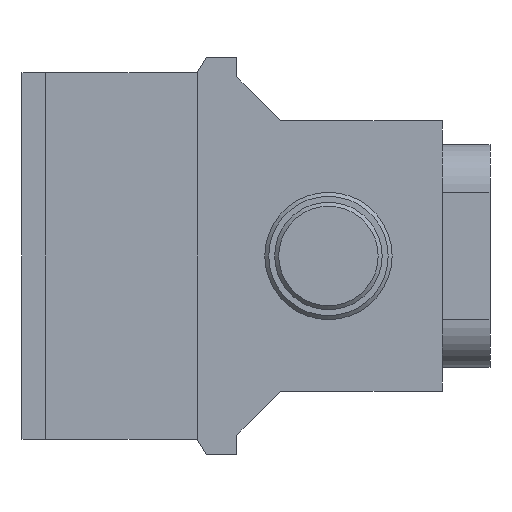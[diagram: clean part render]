
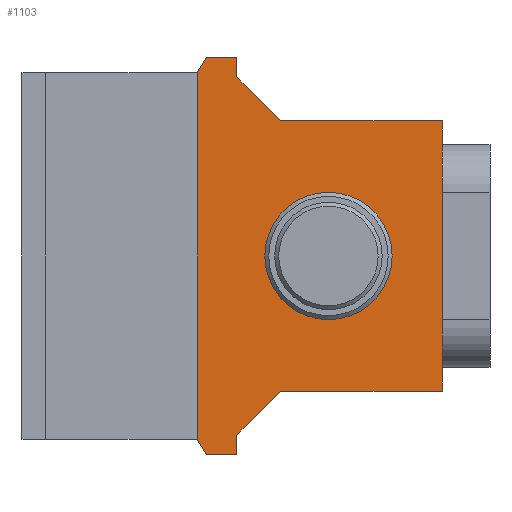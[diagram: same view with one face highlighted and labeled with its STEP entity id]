
A CAD part, left-side view. The second image highlights one B-rep face of the part: STEP entity #1103.
In plain terms, the highlighted planar face has unit normal (-1, 0, 0).
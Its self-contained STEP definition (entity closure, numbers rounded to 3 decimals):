
#8 = CARTESIAN_POINT ( 'NONE',  ( -11., 38., 22.5 ) ) ;
#53 = CARTESIAN_POINT ( 'NONE',  ( -11., 38., -25. ) ) ;
#83 = CARTESIAN_POINT ( 'NONE',  ( -11., 38., 17. ) ) ;
#106 = CARTESIAN_POINT ( 'NONE',  ( -11., 43., 23. ) ) ;
#110 = CARTESIAN_POINT ( 'NONE',  ( -11., 26.5, 0. ) ) ;
#136 = EDGE_CURVE ( 'NONE', #1869, #1623, #403, .T. ) ;
#149 = LINE ( 'NONE', #543, #1719 ) ;
#164 = ORIENTED_EDGE ( 'NONE', *, *, #1233, .F. ) ;
#166 = CARTESIAN_POINT ( 'NONE',  ( -11., 38., 25. ) ) ;
#171 = CIRCLE ( 'NONE', #2646, 8. ) ;
#173 = EDGE_CURVE ( 'NONE', #1258, #1869, #2552, .T. ) ;
#190 = DIRECTION ( 'NONE',  ( 0., -0.5, 0.866 ) ) ;
#202 = EDGE_CURVE ( 'NONE', #401, #913, #1502, .T. ) ;
#213 = VERTEX_POINT ( 'NONE', #701 ) ;
#273 = DIRECTION ( 'NONE',  ( 0., 0., 1. ) ) ;
#291 = ORIENTED_EDGE ( 'NONE', *, *, #622, .F. ) ;
#293 = EDGE_CURVE ( 'NONE', #1623, #910, #2622, .T. ) ;
#343 = CARTESIAN_POINT ( 'NONE',  ( -11., 12.2, -17. ) ) ;
#360 = EDGE_CURVE ( 'NONE', #1483, #2247, #726, .T. ) ;
#371 = LINE ( 'NONE', #1190, #1078 ) ;
#395 = VECTOR ( 'NONE', #2294, 1000. ) ;
#401 = VERTEX_POINT ( 'NONE', #2266 ) ;
#403 = LINE ( 'NONE', #1222, #1177 ) ;
#411 = DIRECTION ( 'NONE',  ( 0., -0.707, -0.707 ) ) ;
#413 = CARTESIAN_POINT ( 'NONE',  ( -11., 43., -23. ) ) ;
#434 = ORIENTED_EDGE ( 'NONE', *, *, #876, .F. ) ;
#543 = CARTESIAN_POINT ( 'NONE',  ( -11., 38., 23. ) ) ;
#566 = EDGE_CURVE ( 'NONE', #2247, #1358, #1038, .T. ) ;
#580 = ORIENTED_EDGE ( 'NONE', *, *, #136, .F. ) ;
#590 = AXIS2_PLACEMENT_3D ( 'NONE', #83, #728, #2159 ) ;
#607 = DIRECTION ( 'NONE',  ( 0., 0., -1. ) ) ;
#612 = ORIENTED_EDGE ( 'NONE', *, *, #566, .F. ) ;
#622 = EDGE_CURVE ( 'NONE', #1854, #1483, #1413, .T. ) ;
#623 = CARTESIAN_POINT ( 'NONE',  ( -11., 12.2, -17. ) ) ;
#642 = ORIENTED_EDGE ( 'NONE', *, *, #2079, .F. ) ;
#658 = ORIENTED_EDGE ( 'NONE', *, *, #2232, .F. ) ;
#701 = CARTESIAN_POINT ( 'NONE',  ( -11., 32.5, 17. ) ) ;
#726 = LINE ( 'NONE', #2169, #1481 ) ;
#728 = DIRECTION ( 'NONE',  ( -1., 0., 0. ) ) ;
#754 = ORIENTED_EDGE ( 'NONE', *, *, #2547, .T. ) ;
#763 = CARTESIAN_POINT ( 'NONE',  ( -11., 38., 25. ) ) ;
#847 = CARTESIAN_POINT ( 'NONE',  ( -11., 38., -22.5 ) ) ;
#870 = VERTEX_POINT ( 'NONE', #1727 ) ;
#876 = EDGE_CURVE ( 'NONE', #913, #1258, #1388, .T. ) ;
#894 = CARTESIAN_POINT ( 'NONE',  ( -11., 41.845, 25. ) ) ;
#910 = VERTEX_POINT ( 'NONE', #166 ) ;
#913 = VERTEX_POINT ( 'NONE', #1617 ) ;
#938 = VERTEX_POINT ( 'NONE', #1297 ) ;
#985 = DIRECTION ( 'NONE',  ( 0., 0., -1. ) ) ;
#1038 = LINE ( 'NONE', #2503, #2360 ) ;
#1044 = ORIENTED_EDGE ( 'NONE', *, *, #293, .F. ) ;
#1078 = VECTOR ( 'NONE', #2002, 1000. ) ;
#1103 = ADVANCED_FACE ( 'NONE', ( #1712, #1322 ), #2149, .T. ) ;
#1134 = VECTOR ( 'NONE', #1904, 1000. ) ;
#1158 = EDGE_CURVE ( 'NONE', #1796, #2048, #2594, .T. ) ;
#1175 = VECTOR ( 'NONE', #273, 1000. ) ;
#1177 = VECTOR ( 'NONE', #190, 1000. ) ;
#1190 = CARTESIAN_POINT ( 'NONE',  ( -11., 12.2, -17. ) ) ;
#1193 = ORIENTED_EDGE ( 'NONE', *, *, #2417, .F. ) ;
#1194 = EDGE_CURVE ( 'NONE', #910, #870, #149, .T. ) ;
#1222 = CARTESIAN_POINT ( 'NONE',  ( -11., 43., 23. ) ) ;
#1223 = LINE ( 'NONE', #2269, #1501 ) ;
#1227 = CARTESIAN_POINT ( 'NONE',  ( -11., 12.2, 17. ) ) ;
#1233 = EDGE_CURVE ( 'NONE', #213, #1796, #1223, .T. ) ;
#1258 = VERTEX_POINT ( 'NONE', #413 ) ;
#1297 = CARTESIAN_POINT ( 'NONE',  ( -11., 26.5, 8. ) ) ;
#1301 = ORIENTED_EDGE ( 'NONE', *, *, #360, .F. ) ;
#1304 = CARTESIAN_POINT ( 'NONE',  ( -11., 43., 23. ) ) ;
#1322 = FACE_OUTER_BOUND ( 'NONE', #1430, .T. ) ;
#1334 = ORIENTED_EDGE ( 'NONE', *, *, #202, .F. ) ;
#1358 = VERTEX_POINT ( 'NONE', #1920 ) ;
#1361 = CARTESIAN_POINT ( 'NONE',  ( -11., 43., -23. ) ) ;
#1388 = LINE ( 'NONE', #1361, #1980 ) ;
#1413 = LINE ( 'NONE', #1631, #2412 ) ;
#1430 = EDGE_LOOP ( 'NONE', ( #164, #1193, #1765, #1044, #580, #1508, #434, #1334, #642, #612, #1301, #291, #658, #1827 ) ) ;
#1481 = VECTOR ( 'NONE', #2143, 1000. ) ;
#1483 = VERTEX_POINT ( 'NONE', #623 ) ;
#1501 = VECTOR ( 'NONE', #1682, 1000. ) ;
#1502 = LINE ( 'NONE', #53, #1134 ) ;
#1508 = ORIENTED_EDGE ( 'NONE', *, *, #173, .F. ) ;
#1576 = EDGE_LOOP ( 'NONE', ( #754 ) ) ;
#1584 = DIRECTION ( 'NONE',  ( 0., -1., 0. ) ) ;
#1617 = CARTESIAN_POINT ( 'NONE',  ( -11., 41.845, -25. ) ) ;
#1623 = VERTEX_POINT ( 'NONE', #894 ) ;
#1631 = CARTESIAN_POINT ( 'NONE',  ( -11., 12.2, -17. ) ) ;
#1682 = DIRECTION ( 'NONE',  ( 0., -1., 0. ) ) ;
#1712 = FACE_BOUND ( 'NONE', #1576, .T. ) ;
#1719 = VECTOR ( 'NONE', #1790, 1000. ) ;
#1727 = CARTESIAN_POINT ( 'NONE',  ( -11., 38., 22.5 ) ) ;
#1738 = VECTOR ( 'NONE', #1584, 1000. ) ;
#1765 = ORIENTED_EDGE ( 'NONE', *, *, #1194, .F. ) ;
#1784 = DIRECTION ( 'NONE',  ( 0., 0., 1. ) ) ;
#1788 = CARTESIAN_POINT ( 'NONE',  ( -11., 32.5, -17. ) ) ;
#1790 = DIRECTION ( 'NONE',  ( 0., 0., -1. ) ) ;
#1796 = VERTEX_POINT ( 'NONE', #1227 ) ;
#1827 = ORIENTED_EDGE ( 'NONE', *, *, #1158, .F. ) ;
#1854 = VERTEX_POINT ( 'NONE', #2383 ) ;
#1869 = VERTEX_POINT ( 'NONE', #106 ) ;
#1904 = DIRECTION ( 'NONE',  ( 0., 1., 0. ) ) ;
#1920 = CARTESIAN_POINT ( 'NONE',  ( -11., 38., -22.5 ) ) ;
#1980 = VECTOR ( 'NONE', #2215, 1000. ) ;
#2002 = DIRECTION ( 'NONE',  ( 0., 0., -1. ) ) ;
#2048 = VERTEX_POINT ( 'NONE', #2270 ) ;
#2065 = LINE ( 'NONE', #847, #395 ) ;
#2079 = EDGE_CURVE ( 'NONE', #1358, #401, #2065, .T. ) ;
#2143 = DIRECTION ( 'NONE',  ( 0., 1., 0. ) ) ;
#2149 = PLANE ( 'NONE',  #590 ) ;
#2159 = DIRECTION ( 'NONE',  ( 0., 0., 1. ) ) ;
#2169 = CARTESIAN_POINT ( 'NONE',  ( -11., 32.5, -17. ) ) ;
#2215 = DIRECTION ( 'NONE',  ( 0., 0.5, 0.866 ) ) ;
#2221 = DIRECTION ( 'NONE',  ( 1., 0., 0. ) ) ;
#2232 = EDGE_CURVE ( 'NONE', #2048, #1854, #371, .T. ) ;
#2247 = VERTEX_POINT ( 'NONE', #1788 ) ;
#2266 = CARTESIAN_POINT ( 'NONE',  ( -11., 38., -25. ) ) ;
#2269 = CARTESIAN_POINT ( 'NONE',  ( -11., 12.2, 17. ) ) ;
#2270 = CARTESIAN_POINT ( 'NONE',  ( -11., 12.2, 14. ) ) ;
#2276 = VECTOR ( 'NONE', #985, 1000. ) ;
#2294 = DIRECTION ( 'NONE',  ( 0., 0., -1. ) ) ;
#2316 = DIRECTION ( 'NONE',  ( 0., 0.707, -0.707 ) ) ;
#2360 = VECTOR ( 'NONE', #2316, 1000. ) ;
#2383 = CARTESIAN_POINT ( 'NONE',  ( -11., 12.2, -14. ) ) ;
#2391 = VECTOR ( 'NONE', #411, 1000. ) ;
#2412 = VECTOR ( 'NONE', #607, 1000. ) ;
#2417 = EDGE_CURVE ( 'NONE', #870, #213, #2494, .T. ) ;
#2494 = LINE ( 'NONE', #8, #2391 ) ;
#2503 = CARTESIAN_POINT ( 'NONE',  ( -11., 32.5, -17. ) ) ;
#2547 = EDGE_CURVE ( 'NONE', #938, #938, #171, .T. ) ;
#2552 = LINE ( 'NONE', #1304, #1175 ) ;
#2594 = LINE ( 'NONE', #343, #2276 ) ;
#2622 = LINE ( 'NONE', #763, #1738 ) ;
#2646 = AXIS2_PLACEMENT_3D ( 'NONE', #110, #2221, #1784 ) ;
